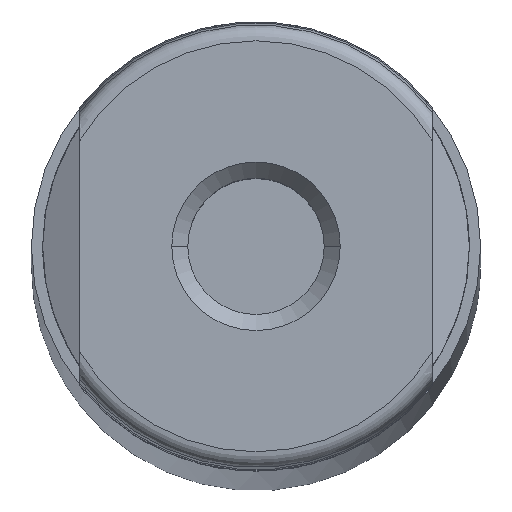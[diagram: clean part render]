
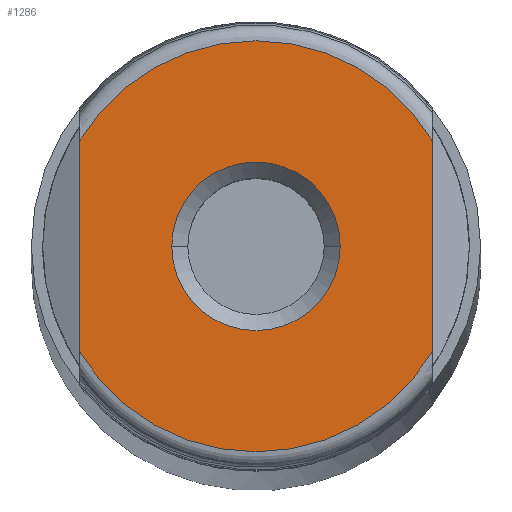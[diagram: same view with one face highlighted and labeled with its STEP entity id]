
A CAD part, top view. The second image highlights one B-rep face of the part: STEP entity #1286.
In plain terms, the highlighted planar face has unit normal (0, 0, 1).
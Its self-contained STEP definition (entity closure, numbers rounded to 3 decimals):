
#26 = EDGE_CURVE ( 'NONE', #32, #1346, #421, .T. ) ;
#32 = VERTEX_POINT ( 'NONE', #466 ) ;
#51 = EDGE_CURVE ( 'NONE', #643, #731, #592, .T. ) ;
#52 = EDGE_LOOP ( 'NONE', ( #71, #72, #1255, #67 ) ) ;
#67 = ORIENTED_EDGE ( 'NONE', *, *, #94, .F. ) ;
#71 = ORIENTED_EDGE ( 'NONE', *, *, #51, .T. ) ;
#72 = ORIENTED_EDGE ( 'NONE', *, *, #78, .T. ) ;
#78 = EDGE_CURVE ( 'NONE', #731, #517, #807, .T. ) ;
#94 = EDGE_CURVE ( 'NONE', #643, #189, #968, .T. ) ;
#137 = EDGE_CURVE ( 'NONE', #1346, #32, #1183, .T. ) ;
#189 = VERTEX_POINT ( 'NONE', #723 ) ;
#191 = ORIENTED_EDGE ( 'NONE', *, *, #137, .F. ) ;
#198 = ORIENTED_EDGE ( 'NONE', *, *, #26, .F. ) ;
#409 = EDGE_LOOP ( 'NONE', ( #191, #198 ) ) ;
#421 = CIRCLE ( 'NONE', #422, 5.25 ) ;
#422 = AXIS2_PLACEMENT_3D ( 'NONE', #423, #424, #425 ) ;
#423 = CARTESIAN_POINT ( 'NONE',  ( 0., 0., 0. ) ) ;
#424 = DIRECTION ( 'NONE',  ( 0., 0., 1. ) ) ;
#425 = DIRECTION ( 'NONE',  ( 1., 0., 0. ) ) ;
#466 = CARTESIAN_POINT ( 'NONE',  ( -5.25, 0., 0. ) ) ;
#517 = VERTEX_POINT ( 'NONE', #716 ) ;
#592 = CIRCLE ( 'NONE', #593, 12.808 ) ;
#593 = AXIS2_PLACEMENT_3D ( 'NONE', #594, #595, #596 ) ;
#594 = CARTESIAN_POINT ( 'NONE',  ( 0., 0., 0. ) ) ;
#595 = DIRECTION ( 'NONE',  ( 0., 0., 1. ) ) ;
#596 = DIRECTION ( 'NONE',  ( 1., 0., 0. ) ) ;
#643 = VERTEX_POINT ( 'NONE', #784 ) ;
#716 = CARTESIAN_POINT ( 'NONE',  ( 11., 6.56, 0. ) ) ;
#723 = CARTESIAN_POINT ( 'NONE',  ( -11., 6.56, 0. ) ) ;
#731 = VERTEX_POINT ( 'NONE', #886 ) ;
#784 = CARTESIAN_POINT ( 'NONE',  ( -11., -6.56, 0. ) ) ;
#807 = LINE ( 'NONE', #808, #809 ) ;
#808 = CARTESIAN_POINT ( 'NONE',  ( 11., -14., 0. ) ) ;
#809 = VECTOR ( 'NONE', #810, 1000. ) ;
#810 = DIRECTION ( 'NONE',  ( 0., 1., 0. ) ) ;
#886 = CARTESIAN_POINT ( 'NONE',  ( 11., -6.56, 0. ) ) ;
#968 = LINE ( 'NONE', #969, #970 ) ;
#969 = CARTESIAN_POINT ( 'NONE',  ( -11., -14., 0. ) ) ;
#970 = VECTOR ( 'NONE', #971, 1000. ) ;
#971 = DIRECTION ( 'NONE',  ( 0., 1., 0. ) ) ;
#1032 = CARTESIAN_POINT ( 'NONE',  ( 5.25, 0., 0. ) ) ;
#1133 = EDGE_CURVE ( 'NONE', #517, #189, #1139, .T. ) ;
#1139 = CIRCLE ( 'NONE', #1140, 12.808 ) ;
#1140 = AXIS2_PLACEMENT_3D ( 'NONE', #1141, #1142, #1143 ) ;
#1141 = CARTESIAN_POINT ( 'NONE',  ( 0., 0., 0. ) ) ;
#1142 = DIRECTION ( 'NONE',  ( 0., 0., 1. ) ) ;
#1143 = DIRECTION ( 'NONE',  ( 1., 0., 0. ) ) ;
#1183 = CIRCLE ( 'NONE', #1184, 5.25 ) ;
#1184 = AXIS2_PLACEMENT_3D ( 'NONE', #1185, #1187, #1188 ) ;
#1185 = CARTESIAN_POINT ( 'NONE',  ( 0., 0., 0. ) ) ;
#1187 = DIRECTION ( 'NONE',  ( 0., 0., 1. ) ) ;
#1188 = DIRECTION ( 'NONE',  ( 1., 0., 0. ) ) ;
#1210 = FACE_BOUND ( 'NONE', #409, .T. ) ;
#1211 = FACE_OUTER_BOUND ( 'NONE', #52, .T. ) ;
#1212 = PLANE ( 'NONE',  #1213 ) ;
#1213 = AXIS2_PLACEMENT_3D ( 'NONE', #1214, #1215, #1216 ) ;
#1214 = CARTESIAN_POINT ( 'NONE',  ( 0., 0., 0. ) ) ;
#1215 = DIRECTION ( 'NONE',  ( 0., 0., -1. ) ) ;
#1216 = DIRECTION ( 'NONE',  ( -1., 0., 0. ) ) ;
#1255 = ORIENTED_EDGE ( 'NONE', *, *, #1133, .T. ) ;
#1286 = ADVANCED_FACE ( 'NONE', ( #1210, #1211 ), #1212, .F. ) ;
#1346 = VERTEX_POINT ( 'NONE', #1032 ) ;
